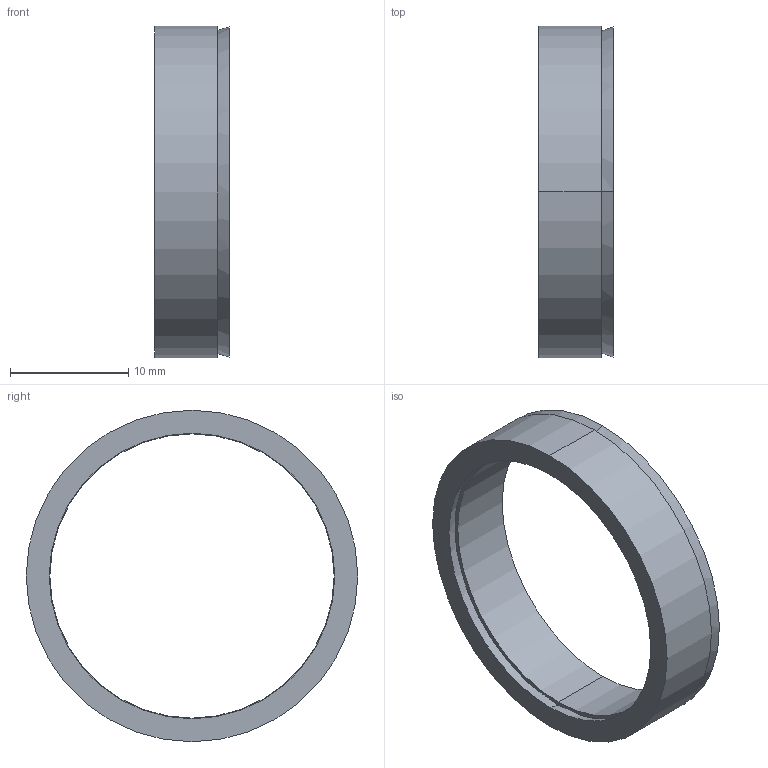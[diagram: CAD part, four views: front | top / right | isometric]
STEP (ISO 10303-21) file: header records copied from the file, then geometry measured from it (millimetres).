
FILE_DESCRIPTION (( 'STEP AP203' ), '1' );
FILE_NAME ('R-24-28.STEP', '2017-11-06T02:11:10', ( 'MYCOM' ), ( '' ), 'SwSTEP 2.0', 'SolidWorks 2015', '' );
FILE_SCHEMA (( 'CONFIG_CONTROL_DESIGN' ));
Length unit declared in the file: millimetre
Products named in the file (1): R-24-28
Bounding box: 6.3 x 28 x 28 mm (x, y, z)
Surface area: 2145.5 mm2 (no closed solid volume)
Topology: 0 solids, 2 shells, 12 faces, 24 edges, 16 vertices
Faces by surface type: cylinder 4, cone 4, plane 4
Entity records: 406 total; most frequent: DIRECTION 66, CARTESIAN_POINT 53, ORIENTED_EDGE 48, AXIS2_PLACEMENT_3D 29, EDGE_CURVE 24, EDGE_LOOP 16, CIRCLE 16, VERTEX_POINT 16
